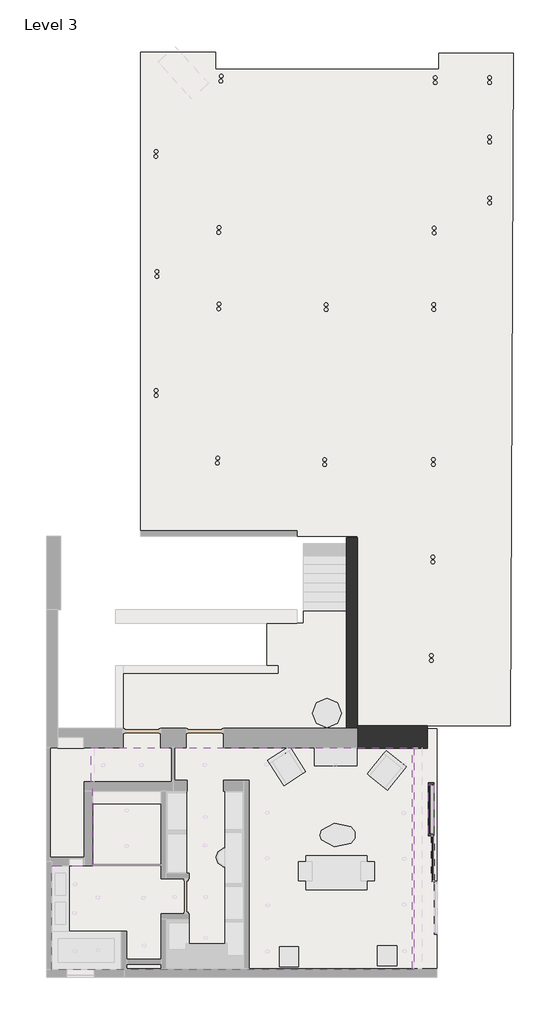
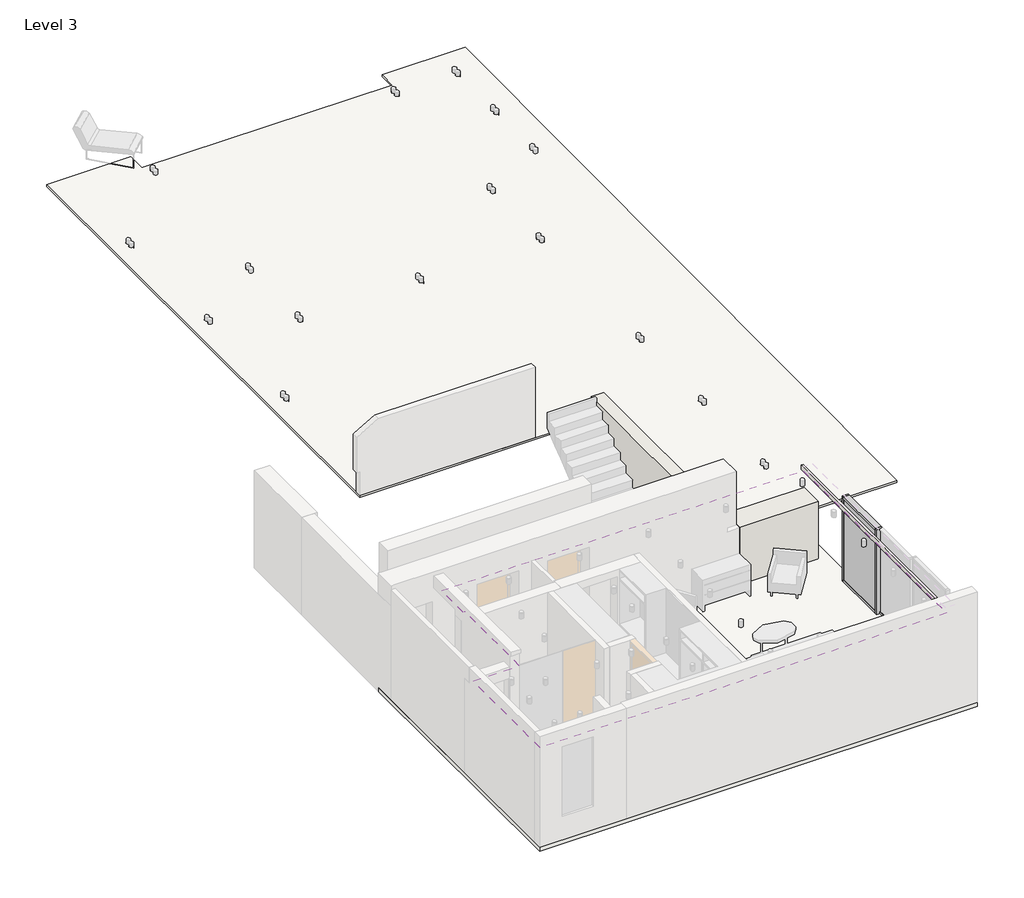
# One storey, part 2 of 3: 5 members, 3 walls, 2 coverings, 1 plate, 1 slab.
"""IFC4 building model written with IfcOpenShell, lengths in millimetres."""

import ifcopenshell
import ifcopenshell.guid

model = None  # the IFC model being written
_history = None  # IfcOwnerHistory: only IFC2X3 demands one
_inside = {}  # id of a spatial element -> (the spatial element, [elements in it])
_under = {}  # id of a project, library or spatial element -> (it, [spatial elements below it])
_declared = {}  # id of a project -> (the project, [libraries it declares])
_typed = {}  # id of a type object -> (the type object, [elements of that type])
_made_of = {}  # id of a material, layer set ... -> (it, [elements and type objects made of it])


def new_model(schema):
    """Start an empty IFC model of exactly this schema.

    Asked for "IFC4X3", IfcOpenShell would pick the latest addendum, in which some entities
    have other attributes; the version numbers below select the first issue.
    IFC2X3 requires an IfcOwnerHistory on every rooted entity: one is made here for all.
    """
    global model, _history
    if schema == "IFC4X3":
        model = ifcopenshell.file(schema_version=(4, 3, 0, 0))
    else:
        model = ifcopenshell.file(schema=schema)
    _inside.clear()
    _under.clear()
    _declared.clear()
    _typed.clear()
    _made_of.clear()
    _history = None
    if model.schema == "IFC2X3":
        org = make("IfcOrganization", Name="unknown")
        user = make(
            "IfcPersonAndOrganization",
            ThePerson=make("IfcPerson", FamilyName="unknown"),
            TheOrganization=org,
        )
        app = make(
            "IfcApplication",
            ApplicationDeveloper=org,
            Version="unknown",
            ApplicationFullName="unknown",
            ApplicationIdentifier="unknown",
        )
        _history = make(
            "IfcOwnerHistory",
            OwningUser=user,
            OwningApplication=app,
            ChangeAction="ADDED",
            CreationDate=0,
        )
    return model


def make(cls, **values):
    """One entity of the class cls with the attributes given. An attribute that is None is left unset."""
    return model.create_entity(
        cls, **{name: value for name, value in values.items() if value is not None}
    )


def rooted(cls, **values):
    """An entity with a GlobalId (a new one), such as an element, a storey or a relation."""
    return make(cls, GlobalId=ifcopenshell.guid.new(), OwnerHistory=_history, **values)


def si_unit(unit_type, name, prefix=None):
    """IfcSIUnit, for example si_unit("LENGTHUNIT", "METRE", prefix="MILLI")."""
    return make("IfcSIUnit", UnitType=unit_type, Prefix=prefix, Name=name)


def assignment(units):
    """IfcUnitAssignment: the units of a project."""
    return None if units is None else make("IfcUnitAssignment", Units=units)


def point(xyz):
    """IfcCartesianPoint."""
    return None if xyz is None else make("IfcCartesianPoint", Coordinates=xyz)


def direction(xyz):
    """IfcDirection."""
    return None if xyz is None else make("IfcDirection", DirectionRatios=xyz)


def frame(location, z_axis=None, x_axis=None):
    """IfcAxis2Placement3D, a coordinate frame: its origin and axes. An axis left out is left unset."""
    return make(
        "IfcAxis2Placement3D",
        Location=point(location),
        Axis=direction(z_axis),
        RefDirection=direction(x_axis),
    )


def frame_2d(location, x_axis=None):
    """IfcAxis2Placement2D, a coordinate frame in the plane: its origin and x axis."""
    return make(
        "IfcAxis2Placement2D", Location=point(location), RefDirection=direction(x_axis)
    )


def origin():
    """The frame at (0, 0, 0) with its axes left unset."""
    return frame((0.0, 0.0, 0.0))


def origin_with_axes():
    """The frame at (0, 0, 0) with the z axis (0, 0, 1) and the x axis (1, 0, 0) written out."""
    return frame((0.0, 0.0, 0.0), z_axis=(0.0, 0.0, 1.0), x_axis=(1.0, 0.0, 0.0))


def place(relative_to, where):
    """IfcLocalPlacement: puts the frame where relative to a parent placement (None: the world)."""
    return make(
        "IfcLocalPlacement", PlacementRelTo=relative_to, RelativePlacement=where
    )


def context(
    kind, dimensions, precision=None, world=None, true_north=None, identifier=None
):
    """IfcGeometricRepresentationContext, for example the 3D "Model" context."""
    return make(
        "IfcGeometricRepresentationContext",
        ContextIdentifier=identifier,
        ContextType=kind,
        CoordinateSpaceDimension=dimensions,
        Precision=precision,
        WorldCoordinateSystem=world,
        TrueNorth=true_north,
    )


def project(units=None, contexts=None):
    """IfcProject with its units and contexts."""
    return rooted(
        "IfcProject",
        Name="project",
        RepresentationContexts=contexts,
        UnitsInContext=assignment(units),
    )


def spatial(cls, under=None, at=None, **own):
    """A site, building, storey or space (cls), placed at a placement, below another one or the project."""
    s = rooted(cls, ObjectPlacement=at, **own)
    if under is not None:
        _under.setdefault(under.id(), (under, []))[1].append(s)
    return s


def polyline(points):
    """IfcPolyline through the points."""
    return make("IfcPolyline", Points=[point(p) for p in points])


def circle_curve(where, radius):
    """IfcCircle in the frame where."""
    return make("IfcCircle", Position=where, Radius=radius)


def trimmed(basis, trim1, trim2, sense, master):
    """IfcTrimmedCurve: the piece of a basis curve between two trims."""
    return make(
        "IfcTrimmedCurve",
        BasisCurve=basis,
        Trim1=trim1,
        Trim2=trim2,
        SenseAgreement=sense,
        MasterRepresentation=master,
    )


def segment(curve, same_sense, transition):
    """IfcCompositeCurveSegment."""
    return make(
        "IfcCompositeCurveSegment",
        Transition=transition,
        SameSense=same_sense,
        ParentCurve=curve,
    )


def composite_curve(segments, self_intersect=None):
    """IfcCompositeCurve: segments joined end to end."""
    return make("IfcCompositeCurve", Segments=segments, SelfIntersect=self_intersect)


def outline(outer, holes=None, kind="AREA"):
    """IfcArbitraryClosedProfileDef: a profile drawn as a closed curve; with holes, ...WithVoids."""
    if holes is None:
        return make("IfcArbitraryClosedProfileDef", ProfileType=kind, OuterCurve=outer)
    return make(
        "IfcArbitraryProfileDefWithVoids",
        ProfileType=kind,
        OuterCurve=outer,
        InnerCurves=holes,
    )


def extrude(swept, where, along, depth):
    """IfcExtrudedAreaSolid: the profile swept, set in the frame where, extruded along a direction by depth."""
    return make(
        "IfcExtrudedAreaSolid",
        SweptArea=swept,
        Position=where,
        ExtrudedDirection=direction(along),
        Depth=depth,
    )


def faces_of(points, faces, orient=None, outer=None):
    """IfcFace entities. A face is a list of loops; a loop is a list of indices into points, from 0.

    orient and outer hold one flag for each loop. By default every Orientation is true, the
    first loop of a face is its IfcFaceOuterBound and the others are IfcFaceBound.
    """
    made = []
    for i, loops in enumerate(faces):
        bounds = []
        for j, loop in enumerate(loops):
            is_outer = j == 0 if outer is None else outer[i][j]
            bounds.append(
                make(
                    "IfcFaceOuterBound" if is_outer else "IfcFaceBound",
                    Bound=make("IfcPolyLoop", Polygon=[points[k] for k in loop]),
                    Orientation=True if orient is None else orient[i][j],
                )
            )
        made.append(make("IfcFace", Bounds=bounds))
    return made


def faceted_brep(points, faces, orient=None, outer=None, voids=None):
    """IfcFacetedBrep: a solid bounded by flat faces; with voids (closed shells), ...WithVoids."""
    shared = [point(p) for p in points]
    hull = make("IfcClosedShell", CfsFaces=faces_of(shared, faces, orient, outer))
    if voids is None:
        return make("IfcFacetedBrep", Outer=hull)
    return make(
        "IfcFacetedBrepWithVoids",
        Outer=hull,
        Voids=[
            make(cls, CfsFaces=faces_of(shared, fs, o, b)) for cls, fs, o, b in voids
        ],
    )


def shape(context_of_items, identifier, shape_type, items):
    """IfcShapeRepresentation: the items that make up one representation, for example the "Body"."""
    return make(
        "IfcShapeRepresentation",
        ContextOfItems=context_of_items,
        RepresentationIdentifier=identifier,
        RepresentationType=shape_type,
        Items=items,
    )


def source(mapping_origin, context_of_items, identifier, shape_type, items):
    """IfcRepresentationMap: a shape defined once, which mapped items show again and again."""
    return make(
        "IfcRepresentationMap",
        MappingOrigin=mapping_origin,
        MappedRepresentation=shape(context_of_items, identifier, shape_type, items),
    )


def transform(
    local_origin,
    x_axis=None,
    y_axis=None,
    z_axis=None,
    scale=None,
    scale2=None,
    scale3=None,
    uniform=True,
):
    """IfcCartesianTransformationOperator3D, or its non-uniform kind. x_axis, y_axis, z_axis: its Axis1, 2, 3."""
    if uniform:
        return make(
            "IfcCartesianTransformationOperator3D",
            Axis1=direction(x_axis),
            Axis2=direction(y_axis),
            LocalOrigin=point(local_origin),
            Scale=scale,
            Axis3=direction(z_axis),
        )
    return make(
        "IfcCartesianTransformationOperator3DnonUniform",
        Axis1=direction(x_axis),
        Axis2=direction(y_axis),
        LocalOrigin=point(local_origin),
        Scale=scale,
        Axis3=direction(z_axis),
        Scale2=scale2,
        Scale3=scale3,
    )


def mapped(mapping_source, mapping_target):
    """IfcMappedItem: shows the shape of a source again, moved by a transform."""
    return make(
        "IfcMappedItem", MappingSource=mapping_source, MappingTarget=mapping_target
    )


def made_of(thing, what):
    """Note that an element or type object is made of a material, layer set ...; save() writes the relation."""
    if what is not None:
        _made_of.setdefault(what.id(), (what, []))[1].append(thing)
    return thing


def element(
    cls,
    number,
    at=None,
    inside=None,
    cuts=None,
    type_object=None,
    material=None,
    context=None,
    identifier="Body",
    shape_type=None,
    held_by="IfcProductDefinitionShape",
    body=None,
    shapes=None,
    **own,
):
    """One element of the class cls, such as IfcWall. Its Tag is "e" and its number.

    at: its placement. inside: the storey or other place that contains it. cuts: it is an
    opening in that element (IfcRelVoidsElement). A single representation is given by context,
    identifier, shape_type and body (its items); several are given by shapes. held_by: the class
    of the entity that holds the representations. save() writes the other relations.
    """
    e = rooted(cls, Tag="e%d" % number, ObjectPlacement=at, **own)
    if body is not None:
        shapes = [shape(context, identifier, shape_type, body)]
    if shapes is not None:
        e.Representation = make(held_by, Representations=shapes)
    if inside is not None:
        _inside.setdefault(inside.id(), (inside, []))[1].append(e)
    if cuts is not None:
        rooted(
            "IfcRelVoidsElement", RelatingBuildingElement=cuts, RelatedOpeningElement=e
        )
    if type_object is not None:
        _typed.setdefault(type_object.id(), (type_object, []))[1].append(e)
    return made_of(e, material)


def aggregate(whole, parts):
    """IfcRelAggregates: a whole, such as a stair, and the parts it consists of."""
    return rooted("IfcRelAggregates", RelatingObject=whole, RelatedObjects=parts)


def save(model, path):
    """Write the relations noted so far, then the file.

    IfcRelAggregates (storeys below a building ...), IfcRelContainedInSpatialStructure (elements
    in a storey), IfcRelDefinesByType, IfcRelAssociatesMaterial and IfcRelDeclares: one each for
    every whole, place, type object, material and project.
    """
    for whole, parts in _under.values():
        aggregate(whole, parts)
    for where, things in _inside.values():
        rooted(
            "IfcRelContainedInSpatialStructure",
            RelatedElements=things,
            RelatingStructure=where,
        )
    for kind, things in _typed.values():
        rooted("IfcRelDefinesByType", RelatedObjects=things, RelatingType=kind)
    for what, things in _made_of.values():
        rooted("IfcRelAssociatesMaterial", RelatedObjects=things, RelatingMaterial=what)
    for by, libraries in _declared.values():
        rooted("IfcRelDeclares", RelatingContext=by, RelatedDefinitions=libraries)
    model.write(path)


def rectangular_mullion_50_x_150mm_6117d25b(model_context):
    return source(origin(), model_context, "Body", "SweptSolid", [
        extrude(outline(polyline([(0.0, 25.0), (0.0, -125.0), (-50.0, -125.0), (-50.0, 25.0), (0.0, 25.0)])), frame((0.0, 0.0, -2184.1033932), z_axis=(0.0, 0.0, 1.0), x_axis=(1.0, 0.0, 0.0)), (0.0, 0.0, 1.0), 2184.1033932),
    ])


def rectangular_mullion_50_x_150mm_4fcc4482(model_context):
    return source(origin(), model_context, "Body", "SweptSolid", [
        extrude(outline(polyline([(0.0, 25.0), (0.0, -125.0), (-50.0, -125.0), (-50.0, 25.0), (0.0, 25.0)])), frame((0.0, 0.0, -1340.0), z_axis=(0.0, 0.0, 1.0), x_axis=(1.0, 0.0, 0.0)), (0.0, 0.0, 1.0), 1340.0),
    ])


def rectangular_mullion_50_x_80mm_1b52a698(model_context):
    return source(origin(), model_context, "Body", "SweptSolid", [
        extrude(outline(polyline([(0.0, 25.0), (0.0, -55.0), (-50.0, -55.0), (-50.0, 25.0), (0.0, 25.0)])), frame((0.0, 0.0, -1240.0), z_axis=(0.0, 0.0, 1.0), x_axis=(1.0, 0.0, 0.0)), (0.0, 0.0, 1.0), 1240.0),
    ])


def system_panel_glazed_2_ff733679(model_context):
    return source(origin(), model_context, "Body", "SweptSolid", [
        extrude(outline(polyline([(670.0, -6.35), (-670.0, -6.35), (-670.0, 6.35), (670.0, 6.35), (670.0, -6.35)])), origin_with_axes(), (0.0, 0.0, 1.0), 2084.1033932),
    ])


model = new_model("IFC4")

# Units and contexts
model_context = context("Model", 3, world=origin())
ifc_project = project(units=[si_unit("LENGTHUNIT", "METRE", prefix="MILLI")], contexts=[model_context])

# Site, building, storey
site = spatial("IfcSite", under=ifc_project)
building = spatial("IfcBuilding", under=site)
storey = spatial("IfcBuildingStorey", under=building, Name="Level 3", Elevation=6510.0)

# Coverings
placement = place(None, origin())
element("IfcCovering", 1, ObjectType="Ceiling", at=placement, inside=storey, context=model_context, shape_type="SweptSolid", body=[
    extrude(outline(polyline([(586.4168364, 5425.4417732), (586.4168364, 10588.8264883), (-5319.2035042, 10588.8264883), (-5319.2035042, 23773.8264883), (-3274.2035042, 23773.8264883), (-3274.2035042, 23308.8264883), (2815.7964958, 23308.8264883), (2815.7964958, 23738.8264883), (4833.4417028, 23738.8264883), (4753.660866, 5425.4417732), (586.4168364, 5425.4417732)]), holes=[composite_curve([segment(trimmed(circle_curve(frame_2d((-3224.1942338, 12580.4333824)), 50.0), [point((-3274.1942338, 12580.4333824))], [point((-3174.1942338, 12580.4333824))], True, "CARTESIAN"), True, "CONTINUOUS"), segment(trimmed(circle_curve(frame_2d((-3224.1942338, 12580.4333824)), 50.0), [point((-3174.1942338, 12580.4333824))], [point((-3274.1942338, 12580.4333824))], True, "CARTESIAN"), True, "CONTINUOUS")], self_intersect=False), composite_curve([segment(trimmed(circle_curve(frame_2d((-3214.4590029, 12716.7266151)), 50.0), [point((-3264.4590029, 12716.7266151))], [point((-3164.4590029, 12716.7266151))], True, "CARTESIAN"), True, "CONTINUOUS"), segment(trimmed(circle_curve(frame_2d((-3214.4590029, 12716.7266151)), 50.0), [point((-3164.4590029, 12716.7266151))], [point((-3264.4590029, 12716.7266151))], True, "CARTESIAN"), True, "CONTINUOUS")], self_intersect=False), composite_curve([segment(trimmed(circle_curve(frame_2d((-3188.0817045, 16780.2766349)), 50.0), [point((-3238.0817045, 16780.2766349))], [point((-3138.0817045, 16780.2766349))], True, "CARTESIAN"), True, "CONTINUOUS"), segment(trimmed(circle_curve(frame_2d((-3188.0817045, 16780.2766349)), 50.0), [point((-3138.0817045, 16780.2766349))], [point((-3238.0817045, 16780.2766349))], True, "CARTESIAN"), True, "CONTINUOUS")], self_intersect=False), composite_curve([segment(trimmed(circle_curve(frame_2d((-3178.3464736, 16916.5698676)), 50.0), [point((-3228.3464736, 16916.5698676))], [point((-3128.3464736, 16916.5698676))], True, "CARTESIAN"), True, "CONTINUOUS"), segment(trimmed(circle_curve(frame_2d((-3178.3464736, 16916.5698676)), 50.0), [point((-3128.3464736, 16916.5698676))], [point((-3228.3464736, 16916.5698676))], True, "CARTESIAN"), True, "CONTINUOUS")], self_intersect=False), composite_curve([segment(trimmed(circle_curve(frame_2d((-3188.0817045, 18860.2766349)), 50.0), [point((-3238.0817045, 18860.2766349))], [point((-3138.0817045, 18860.2766349))], True, "CARTESIAN"), True, "CONTINUOUS"), segment(trimmed(circle_curve(frame_2d((-3188.0817045, 18860.2766349)), 50.0), [point((-3138.0817045, 18860.2766349))], [point((-3238.0817045, 18860.2766349))], True, "CARTESIAN"), True, "CONTINUOUS")], self_intersect=False), composite_curve([segment(trimmed(circle_curve(frame_2d((-3178.3464736, 18996.5698676)), 50.0), [point((-3228.3464736, 18996.5698676))], [point((-3128.3464736, 18996.5698676))], True, "CARTESIAN"), True, "CONTINUOUS"), segment(trimmed(circle_curve(frame_2d((-3178.3464736, 18996.5698676)), 50.0), [point((-3128.3464736, 18996.5698676))], [point((-3228.3464736, 18996.5698676))], True, "CARTESIAN"), True, "CONTINUOUS")], self_intersect=False), composite_curve([segment(trimmed(circle_curve(frame_2d((-3128.0817045, 22980.2766349)), 50.0), [point((-3178.0817045, 22980.2766349))], [point((-3078.0817045, 22980.2766349))], True, "CARTESIAN"), True, "CONTINUOUS"), segment(trimmed(circle_curve(frame_2d((-3128.0817045, 22980.2766349)), 50.0), [point((-3078.0817045, 22980.2766349))], [point((-3178.0817045, 22980.2766349))], True, "CARTESIAN"), True, "CONTINUOUS")], self_intersect=False), composite_curve([segment(trimmed(circle_curve(frame_2d((-3118.3464736, 23116.5698676)), 50.0), [point((-3168.3464736, 23116.5698676))], [point((-3068.3464736, 23116.5698676))], True, "CARTESIAN"), True, "CONTINUOUS"), segment(trimmed(circle_curve(frame_2d((-3118.3464736, 23116.5698676)), 50.0), [point((-3068.3464736, 23116.5698676))], [point((-3168.3464736, 23116.5698676))], True, "CARTESIAN"), True, "CONTINUOUS")], self_intersect=False), composite_curve([segment(trimmed(circle_curve(frame_2d((-4902.2467604, 20931.982539)), 50.0), [point((-4952.2467604, 20931.982539))], [point((-4852.2467604, 20931.982539))], True, "CARTESIAN"), True, "CONTINUOUS"), segment(trimmed(circle_curve(frame_2d((-4902.2467604, 20931.982539)), 50.0), [point((-4852.2467604, 20931.982539))], [point((-4952.2467604, 20931.982539))], True, "CARTESIAN"), True, "CONTINUOUS")], self_intersect=False), composite_curve([segment(trimmed(circle_curve(frame_2d((-4892.5115294, 21068.2757716)), 50.0), [point((-4942.5115294, 21068.2757716))], [point((-4842.5115294, 21068.2757716))], True, "CARTESIAN"), True, "CONTINUOUS"), segment(trimmed(circle_curve(frame_2d((-4892.5115294, 21068.2757716)), 50.0), [point((-4842.5115294, 21068.2757716))], [point((-4942.5115294, 21068.2757716))], True, "CARTESIAN"), True, "CONTINUOUS")], self_intersect=False), composite_curve([segment(trimmed(circle_curve(frame_2d((-4872.2467604, 17661.982539)), 50.0), [point((-4922.2467604, 17661.982539))], [point((-4822.2467604, 17661.982539))], True, "CARTESIAN"), True, "CONTINUOUS"), segment(trimmed(circle_curve(frame_2d((-4872.2467604, 17661.982539)), 50.0), [point((-4822.2467604, 17661.982539))], [point((-4922.2467604, 17661.982539))], True, "CARTESIAN"), True, "CONTINUOUS")], self_intersect=False), composite_curve([segment(trimmed(circle_curve(frame_2d((-4872.5115294, 17798.2757716)), 50.0), [point((-4922.5115294, 17798.2757716))], [point((-4822.5115294, 17798.2757716))], True, "CARTESIAN"), True, "CONTINUOUS"), segment(trimmed(circle_curve(frame_2d((-4872.5115294, 17798.2757716)), 50.0), [point((-4822.5115294, 17798.2757716))], [point((-4922.5115294, 17798.2757716))], True, "CARTESIAN"), True, "CONTINUOUS")], self_intersect=False), composite_curve([segment(trimmed(circle_curve(frame_2d((-4892.2467604, 14421.982539)), 50.0), [point((-4942.2467604, 14421.982539))], [point((-4842.2467604, 14421.982539))], True, "CARTESIAN"), True, "CONTINUOUS"), segment(trimmed(circle_curve(frame_2d((-4892.2467604, 14421.982539)), 50.0), [point((-4842.2467604, 14421.982539))], [point((-4942.2467604, 14421.982539))], True, "CARTESIAN"), True, "CONTINUOUS")], self_intersect=False), composite_curve([segment(trimmed(circle_curve(frame_2d((-4892.5115294, 14558.2757716)), 50.0), [point((-4942.5115294, 14558.2757716))], [point((-4842.5115294, 14558.2757716))], True, "CARTESIAN"), True, "CONTINUOUS"), segment(trimmed(circle_curve(frame_2d((-4892.5115294, 14558.2757716)), 50.0), [point((-4842.5115294, 14558.2757716))], [point((-4942.5115294, 14558.2757716))], True, "CARTESIAN"), True, "CONTINUOUS")], self_intersect=False), composite_curve([segment(trimmed(circle_curve(frame_2d((-303.3628814, 12539.5853868)), 50.0), [point((-353.3628814, 12539.5853868))], [point((-253.3628814, 12539.5853868))], True, "CARTESIAN"), True, "CONTINUOUS"), segment(trimmed(circle_curve(frame_2d((-303.3628814, 12539.5853868)), 50.0), [point((-253.3628814, 12539.5853868))], [point((-353.3628814, 12539.5853868))], True, "CARTESIAN"), True, "CONTINUOUS")], self_intersect=False), composite_curve([segment(trimmed(circle_curve(frame_2d((-303.6276505, 12675.8786195)), 50.0), [point((-353.6276505, 12675.8786195))], [point((-253.6276505, 12675.8786195))], True, "CARTESIAN"), True, "CONTINUOUS"), segment(trimmed(circle_curve(frame_2d((-303.6276505, 12675.8786195)), 50.0), [point((-253.6276505, 12675.8786195))], [point((-353.6276505, 12675.8786195))], True, "CARTESIAN"), True, "CONTINUOUS")], self_intersect=False), composite_curve([segment(trimmed(circle_curve(frame_2d((-263.3628814, 16759.5853868)), 50.0), [point((-313.3628814, 16759.5853868))], [point((-213.3628814, 16759.5853868))], True, "CARTESIAN"), True, "CONTINUOUS"), segment(trimmed(circle_curve(frame_2d((-263.3628814, 16759.5853868)), 50.0), [point((-213.3628814, 16759.5853868))], [point((-313.3628814, 16759.5853868))], True, "CARTESIAN"), True, "CONTINUOUS")], self_intersect=False), composite_curve([segment(trimmed(circle_curve(frame_2d((-263.6276505, 16895.8786195)), 50.0), [point((-313.6276505, 16895.8786195))], [point((-213.6276505, 16895.8786195))], True, "CARTESIAN"), True, "CONTINUOUS"), segment(trimmed(circle_curve(frame_2d((-263.6276505, 16895.8786195)), 50.0), [point((-213.6276505, 16895.8786195))], [point((-313.6276505, 16895.8786195))], True, "CARTESIAN"), True, "CONTINUOUS")], self_intersect=False), composite_curve([segment(trimmed(circle_curve(frame_2d((2713.7771246, 22939.8958471)), 50.0), [point((2663.7771246, 22939.8958471))], [point((2763.7771246, 22939.8958471))], True, "CARTESIAN"), True, "CONTINUOUS"), segment(trimmed(circle_curve(frame_2d((2713.7771246, 22939.8958471)), 50.0), [point((2763.7771246, 22939.8958471))], [point((2663.7771246, 22939.8958471))], True, "CARTESIAN"), True, "CONTINUOUS")], self_intersect=False), composite_curve([segment(trimmed(circle_curve(frame_2d((2713.5123555, 23076.1890797)), 50.0), [point((2663.5123555, 23076.1890797))], [point((2763.5123555, 23076.1890797))], True, "CARTESIAN"), True, "CONTINUOUS"), segment(trimmed(circle_curve(frame_2d((2713.5123555, 23076.1890797)), 50.0), [point((2763.5123555, 23076.1890797))], [point((2663.5123555, 23076.1890797))], True, "CARTESIAN"), True, "CONTINUOUS")], self_intersect=False), composite_curve([segment(trimmed(circle_curve(frame_2d((4193.7771246, 22939.8958471)), 50.0), [point((4143.7771246, 22939.8958471))], [point((4243.7771246, 22939.8958471))], True, "CARTESIAN"), True, "CONTINUOUS"), segment(trimmed(circle_curve(frame_2d((4193.7771246, 22939.8958471)), 50.0), [point((4243.7771246, 22939.8958471))], [point((4143.7771246, 22939.8958471))], True, "CARTESIAN"), True, "CONTINUOUS")], self_intersect=False), composite_curve([segment(trimmed(circle_curve(frame_2d((4193.5123555, 23076.1890797)), 50.0), [point((4143.5123555, 23076.1890797))], [point((4243.5123555, 23076.1890797))], True, "CARTESIAN"), True, "CONTINUOUS"), segment(trimmed(circle_curve(frame_2d((4193.5123555, 23076.1890797)), 50.0), [point((4243.5123555, 23076.1890797))], [point((4143.5123555, 23076.1890797))], True, "CARTESIAN"), True, "CONTINUOUS")], self_intersect=False), composite_curve([segment(trimmed(circle_curve(frame_2d((4193.7771246, 21319.8958471)), 50.0), [point((4143.7771246, 21319.8958471))], [point((4243.7771246, 21319.8958471))], True, "CARTESIAN"), True, "CONTINUOUS"), segment(trimmed(circle_curve(frame_2d((4193.7771246, 21319.8958471)), 50.0), [point((4243.7771246, 21319.8958471))], [point((4143.7771246, 21319.8958471))], True, "CARTESIAN"), True, "CONTINUOUS")], self_intersect=False), composite_curve([segment(trimmed(circle_curve(frame_2d((4193.5123555, 21456.1890797)), 50.0), [point((4143.5123555, 21456.1890797))], [point((4243.5123555, 21456.1890797))], True, "CARTESIAN"), True, "CONTINUOUS"), segment(trimmed(circle_curve(frame_2d((4193.5123555, 21456.1890797)), 50.0), [point((4243.5123555, 21456.1890797))], [point((4143.5123555, 21456.1890797))], True, "CARTESIAN"), True, "CONTINUOUS")], self_intersect=False), composite_curve([segment(trimmed(circle_curve(frame_2d((4193.7771246, 19664.8958471)), 50.0), [point((4143.7771246, 19664.8958471))], [point((4243.7771246, 19664.8958471))], True, "CARTESIAN"), True, "CONTINUOUS"), segment(trimmed(circle_curve(frame_2d((4193.7771246, 19664.8958471)), 50.0), [point((4243.7771246, 19664.8958471))], [point((4143.7771246, 19664.8958471))], True, "CARTESIAN"), True, "CONTINUOUS")], self_intersect=False), composite_curve([segment(trimmed(circle_curve(frame_2d((4193.5123555, 19801.1890797)), 50.0), [point((4143.5123555, 19801.1890797))], [point((4243.5123555, 19801.1890797))], True, "CARTESIAN"), True, "CONTINUOUS"), segment(trimmed(circle_curve(frame_2d((4193.5123555, 19801.1890797)), 50.0), [point((4243.5123555, 19801.1890797))], [point((4143.5123555, 19801.1890797))], True, "CARTESIAN"), True, "CONTINUOUS")], self_intersect=False), composite_curve([segment(trimmed(circle_curve(frame_2d((2682.4541124, 18843.7364516)), 50.0), [point((2632.4541124, 18843.7364516))], [point((2732.4541124, 18843.7364516))], True, "CARTESIAN"), True, "CONTINUOUS"), segment(trimmed(circle_curve(frame_2d((2682.4541124, 18843.7364516)), 50.0), [point((2732.4541124, 18843.7364516))], [point((2632.4541124, 18843.7364516))], True, "CARTESIAN"), True, "CONTINUOUS")], self_intersect=False), composite_curve([segment(trimmed(circle_curve(frame_2d((2682.1893433, 18980.0296842)), 50.0), [point((2632.1893433, 18980.0296842))], [point((2732.1893433, 18980.0296842))], True, "CARTESIAN"), True, "CONTINUOUS"), segment(trimmed(circle_curve(frame_2d((2682.1893433, 18980.0296842)), 50.0), [point((2732.1893433, 18980.0296842))], [point((2632.1893433, 18980.0296842))], True, "CARTESIAN"), True, "CONTINUOUS")], self_intersect=False), composite_curve([segment(trimmed(circle_curve(frame_2d((2672.4541124, 16763.7364516)), 50.0), [point((2622.4541124, 16763.7364516))], [point((2722.4541124, 16763.7364516))], True, "CARTESIAN"), True, "CONTINUOUS"), segment(trimmed(circle_curve(frame_2d((2672.4541124, 16763.7364516)), 50.0), [point((2722.4541124, 16763.7364516))], [point((2622.4541124, 16763.7364516))], True, "CARTESIAN"), True, "CONTINUOUS")], self_intersect=False), composite_curve([segment(trimmed(circle_curve(frame_2d((2672.1893433, 16900.0296842)), 50.0), [point((2622.1893433, 16900.0296842))], [point((2722.1893433, 16900.0296842))], True, "CARTESIAN"), True, "CONTINUOUS"), segment(trimmed(circle_curve(frame_2d((2672.1893433, 16900.0296842)), 50.0), [point((2722.1893433, 16900.0296842))], [point((2622.1893433, 16900.0296842))], True, "CARTESIAN"), True, "CONTINUOUS")], self_intersect=False), composite_curve([segment(trimmed(circle_curve(frame_2d((2662.4541124, 12543.7364516)), 50.0), [point((2612.4541124, 12543.7364516))], [point((2712.4541124, 12543.7364516))], True, "CARTESIAN"), True, "CONTINUOUS"), segment(trimmed(circle_curve(frame_2d((2662.4541124, 12543.7364516)), 50.0), [point((2712.4541124, 12543.7364516))], [point((2612.4541124, 12543.7364516))], True, "CARTESIAN"), True, "CONTINUOUS")], self_intersect=False), composite_curve([segment(trimmed(circle_curve(frame_2d((2662.1893433, 12680.0296842)), 50.0), [point((2612.1893433, 12680.0296842))], [point((2712.1893433, 12680.0296842))], True, "CARTESIAN"), True, "CONTINUOUS"), segment(trimmed(circle_curve(frame_2d((2662.1893433, 12680.0296842)), 50.0), [point((2712.1893433, 12680.0296842))], [point((2612.1893433, 12680.0296842))], True, "CARTESIAN"), True, "CONTINUOUS")], self_intersect=False), composite_curve([segment(trimmed(circle_curve(frame_2d((2647.4541124, 9888.7364516)), 50.0), [point((2597.4541124, 9888.7364516))], [point((2697.4541124, 9888.7364516))], True, "CARTESIAN"), True, "CONTINUOUS"), segment(trimmed(circle_curve(frame_2d((2647.4541124, 9888.7364516)), 50.0), [point((2697.4541124, 9888.7364516))], [point((2597.4541124, 9888.7364516))], True, "CARTESIAN"), True, "CONTINUOUS")], self_intersect=False), composite_curve([segment(trimmed(circle_curve(frame_2d((2647.1893433, 10025.0296842)), 50.0), [point((2597.1893433, 10025.0296842))], [point((2697.1893433, 10025.0296842))], True, "CARTESIAN"), True, "CONTINUOUS"), segment(trimmed(circle_curve(frame_2d((2647.1893433, 10025.0296842)), 50.0), [point((2697.1893433, 10025.0296842))], [point((2597.1893433, 10025.0296842))], True, "CARTESIAN"), True, "CONTINUOUS")], self_intersect=False), composite_curve([segment(trimmed(circle_curve(frame_2d((2607.4541124, 7208.7364516)), 50.0), [point((2557.4541124, 7208.7364516))], [point((2657.4541124, 7208.7364516))], True, "CARTESIAN"), True, "CONTINUOUS"), segment(trimmed(circle_curve(frame_2d((2607.4541124, 7208.7364516)), 50.0), [point((2657.4541124, 7208.7364516))], [point((2557.4541124, 7208.7364516))], True, "CARTESIAN"), True, "CONTINUOUS")], self_intersect=False), composite_curve([segment(trimmed(circle_curve(frame_2d((2607.1893433, 7345.0296842)), 50.0), [point((2557.1893433, 7345.0296842))], [point((2657.1893433, 7345.0296842))], True, "CARTESIAN"), True, "CONTINUOUS"), segment(trimmed(circle_curve(frame_2d((2607.1893433, 7345.0296842)), 50.0), [point((2657.1893433, 7345.0296842))], [point((2557.1893433, 7345.0296842))], True, "CARTESIAN"), True, "CONTINUOUS")], self_intersect=False)]), frame((0.0, 0.0, 7325.0), z_axis=(0.0, 0.0, 1.0), x_axis=(1.0, 0.0, 0.0)), (0.0, 0.0, 1.0), 50.0),
])
element("IfcCovering", 2, ObjectType="Ceiling", at=placement, inside=storey, context=model_context, shape_type="SweptSolid", body=[
    extrude(outline(polyline([(-6658.0019919, 4825.5198069), (2136.8850026, 4825.5198069), (2136.8850026, -1211.1735117), (-7745.5019919, -1211.1735117), (-7745.5019919, 1613.8264883), (-6618.0019919, 1613.8264883), (-6618.0019919, 3903.8264883), (-6658.0019919, 3903.8264883), (-6658.0019919, 4825.5198069)]), holes=[composite_curve([segment(trimmed(circle_curve(frame_2d((1854.4980081, 4375.5198069)), 50.0), [point((1804.4980081, 4375.5198069))], [point((1904.4980081, 4375.5198069))], True, "CARTESIAN"), True, "CONTINUOUS"), segment(trimmed(circle_curve(frame_2d((1854.4980081, 4375.5198069)), 50.0), [point((1904.4980081, 4375.5198069))], [point((1804.4980081, 4375.5198069))], True, "CARTESIAN"), True, "CONTINUOUS")], self_intersect=False), composite_curve([segment(trimmed(circle_curve(frame_2d((1854.4980081, 3055.5198069)), 50.0), [point((1804.4980081, 3055.5198069))], [point((1904.4980081, 3055.5198069))], True, "CARTESIAN"), True, "CONTINUOUS"), segment(trimmed(circle_curve(frame_2d((1854.4980081, 3055.5198069)), 50.0), [point((1904.4980081, 3055.5198069))], [point((1804.4980081, 3055.5198069))], True, "CARTESIAN"), True, "CONTINUOUS")], self_intersect=False), composite_curve([segment(trimmed(circle_curve(frame_2d((1869.4980081, 1810.5198069)), 50.0), [point((1819.4980081, 1810.5198069))], [point((1919.4980081, 1810.5198069))], True, "CARTESIAN"), True, "CONTINUOUS"), segment(trimmed(circle_curve(frame_2d((1869.4980081, 1810.5198069)), 50.0), [point((1919.4980081, 1810.5198069))], [point((1819.4980081, 1810.5198069))], True, "CARTESIAN"), True, "CONTINUOUS")], self_intersect=False), composite_curve([segment(trimmed(circle_curve(frame_2d((1864.4980081, 565.5198069)), 50.0), [point((1814.4980081, 565.5198069))], [point((1914.4980081, 565.5198069))], True, "CARTESIAN"), True, "CONTINUOUS"), segment(trimmed(circle_curve(frame_2d((1864.4980081, 565.5198069)), 50.0), [point((1914.4980081, 565.5198069))], [point((1814.4980081, 565.5198069))], True, "CARTESIAN"), True, "CONTINUOUS")], self_intersect=False), composite_curve([segment(trimmed(circle_curve(frame_2d((1874.4980081, -704.4801931)), 50.0), [point((1824.4980081, -704.4801931))], [point((1924.4980081, -704.4801931))], True, "CARTESIAN"), True, "CONTINUOUS"), segment(trimmed(circle_curve(frame_2d((1874.4980081, -704.4801931)), 50.0), [point((1924.4980081, -704.4801931))], [point((1824.4980081, -704.4801931))], True, "CARTESIAN"), True, "CONTINUOUS")], self_intersect=False), composite_curve([segment(trimmed(circle_curve(frame_2d((-15.9288364, 4355.5198069)), 50.0), [point((-65.9288364, 4355.5198069))], [point((34.0711636, 4355.5198069))], True, "CARTESIAN"), True, "CONTINUOUS"), segment(trimmed(circle_curve(frame_2d((-15.9288364, 4355.5198069)), 50.0), [point((34.0711636, 4355.5198069))], [point((-65.9288364, 4355.5198069))], True, "CARTESIAN"), True, "CONTINUOUS")], self_intersect=False), composite_curve([segment(trimmed(circle_curve(frame_2d((-1885.5019919, 4375.5198069)), 50.0), [point((-1935.5019919, 4375.5198069))], [point((-1835.5019919, 4375.5198069))], True, "CARTESIAN"), True, "CONTINUOUS"), segment(trimmed(circle_curve(frame_2d((-1885.5019919, 4375.5198069)), 50.0), [point((-1835.5019919, 4375.5198069))], [point((-1935.5019919, 4375.5198069))], True, "CARTESIAN"), True, "CONTINUOUS")], self_intersect=False), composite_curve([segment(trimmed(circle_curve(frame_2d((-1865.5019919, 3063.8264883)), 50.0), [point((-1915.5019919, 3063.8264883))], [point((-1815.5019919, 3063.8264883))], True, "CARTESIAN"), True, "CONTINUOUS"), segment(trimmed(circle_curve(frame_2d((-1865.5019919, 3063.8264883)), 50.0), [point((-1815.5019919, 3063.8264883))], [point((-1915.5019919, 3063.8264883))], True, "CARTESIAN"), True, "CONTINUOUS")], self_intersect=False), composite_curve([segment(trimmed(circle_curve(frame_2d((-1865.5019919, 1823.8264883)), 50.0), [point((-1915.5019919, 1823.8264883))], [point((-1815.5019919, 1823.8264883))], True, "CARTESIAN"), True, "CONTINUOUS"), segment(trimmed(circle_curve(frame_2d((-1865.5019919, 1823.8264883)), 50.0), [point((-1815.5019919, 1823.8264883))], [point((-1915.5019919, 1823.8264883))], True, "CARTESIAN"), True, "CONTINUOUS")], self_intersect=False), composite_curve([segment(trimmed(circle_curve(frame_2d((-1850.5019919, 541.203259)), 50.0), [point((-1900.5019919, 541.203259))], [point((-1800.5019919, 541.203259))], True, "CARTESIAN"), True, "CONTINUOUS"), segment(trimmed(circle_curve(frame_2d((-1850.5019919, 541.203259)), 50.0), [point((-1800.5019919, 541.203259))], [point((-1900.5019919, 541.203259))], True, "CARTESIAN"), True, "CONTINUOUS")], self_intersect=False), composite_curve([segment(trimmed(circle_curve(frame_2d((-1860.5019919, -716.1735117)), 50.0), [point((-1910.5019919, -716.1735117))], [point((-1810.5019919, -716.1735117))], True, "CARTESIAN"), True, "CONTINUOUS"), segment(trimmed(circle_curve(frame_2d((-1860.5019919, -716.1735117)), 50.0), [point((-1810.5019919, -716.1735117))], [point((-1910.5019919, -716.1735117))], True, "CARTESIAN"), True, "CONTINUOUS")], self_intersect=False), composite_curve([segment(trimmed(circle_curve(frame_2d((-3570.7190497, 4363.8264883)), 50.0), [point((-3620.7190497, 4363.8264883))], [point((-3520.7190497, 4363.8264883))], True, "CARTESIAN"), True, "CONTINUOUS"), segment(trimmed(circle_curve(frame_2d((-3570.7190497, 4363.8264883)), 50.0), [point((-3520.7190497, 4363.8264883))], [point((-3620.7190497, 4363.8264883))], True, "CARTESIAN"), True, "CONTINUOUS")], self_intersect=False), composite_curve([segment(trimmed(circle_curve(frame_2d((-3553.0019919, 2943.8264883)), 50.0), [point((-3603.0019919, 2943.8264883))], [point((-3503.0019919, 2943.8264883))], True, "CARTESIAN"), True, "CONTINUOUS"), segment(trimmed(circle_curve(frame_2d((-3553.0019919, 2943.8264883)), 50.0), [point((-3503.0019919, 2943.8264883))], [point((-3603.0019919, 2943.8264883))], True, "CARTESIAN"), True, "CONTINUOUS")], self_intersect=False), composite_curve([segment(trimmed(circle_curve(frame_2d((-3558.0019919, 2173.8264883)), 50.0), [point((-3608.0019919, 2173.8264883))], [point((-3508.0019919, 2173.8264883))], True, "CARTESIAN"), True, "CONTINUOUS"), segment(trimmed(circle_curve(frame_2d((-3558.0019919, 2173.8264883)), 50.0), [point((-3508.0019919, 2173.8264883))], [point((-3608.0019919, 2173.8264883))], True, "CARTESIAN"), True, "CONTINUOUS")], self_intersect=False), composite_curve([segment(trimmed(circle_curve(frame_2d((-3538.0019919, 767.224799)), 50.0), [point((-3588.0019919, 767.224799))], [point((-3488.0019919, 767.224799))], True, "CARTESIAN"), True, "CONTINUOUS"), segment(trimmed(circle_curve(frame_2d((-3538.0019919, 767.224799)), 50.0), [point((-3488.0019919, 767.224799))], [point((-3588.0019919, 767.224799))], True, "CARTESIAN"), True, "CONTINUOUS")], self_intersect=False), composite_curve([segment(trimmed(circle_curve(frame_2d((-3538.0019919, -342.775201)), 50.0), [point((-3588.0019919, -342.775201))], [point((-3488.0019919, -342.775201))], True, "CARTESIAN"), True, "CONTINUOUS"), segment(trimmed(circle_curve(frame_2d((-3538.0019919, -342.775201)), 50.0), [point((-3488.0019919, -342.775201))], [point((-3588.0019919, -342.775201))], True, "CARTESIAN"), True, "CONTINUOUS")], self_intersect=False), composite_curve([segment(trimmed(circle_curve(frame_2d((-4388.0019919, 767.224799)), 50.0), [point((-4438.0019919, 767.224799))], [point((-4338.0019919, 767.224799))], True, "CARTESIAN"), True, "CONTINUOUS"), segment(trimmed(circle_curve(frame_2d((-4388.0019919, 767.224799)), 50.0), [point((-4338.0019919, 767.224799))], [point((-4438.0019919, 767.224799))], True, "CARTESIAN"), True, "CONTINUOUS")], self_intersect=False), composite_curve([segment(trimmed(circle_curve(frame_2d((-5234.6139704, 747.224799)), 50.0), [point((-5284.6139704, 747.224799))], [point((-5184.6139704, 747.224799))], True, "CARTESIAN"), True, "CONTINUOUS"), segment(trimmed(circle_curve(frame_2d((-5234.6139704, 747.224799)), 50.0), [point((-5184.6139704, 747.224799))], [point((-5284.6139704, 747.224799))], True, "CARTESIAN"), True, "CONTINUOUS")], self_intersect=False), composite_curve([segment(trimmed(circle_curve(frame_2d((-5698.0019919, 3123.8264883)), 50.0), [point((-5748.0019919, 3123.8264883))], [point((-5648.0019919, 3123.8264883))], True, "CARTESIAN"), True, "CONTINUOUS"), segment(trimmed(circle_curve(frame_2d((-5698.0019919, 3123.8264883)), 50.0), [point((-5648.0019919, 3123.8264883))], [point((-5748.0019919, 3123.8264883))], True, "CARTESIAN"), True, "CONTINUOUS")], self_intersect=False), composite_curve([segment(trimmed(circle_curve(frame_2d((-5698.0019919, 2153.8264883)), 50.0), [point((-5748.0019919, 2153.8264883))], [point((-5648.0019919, 2153.8264883))], True, "CARTESIAN"), True, "CONTINUOUS"), segment(trimmed(circle_curve(frame_2d((-5698.0019919, 2153.8264883)), 50.0), [point((-5648.0019919, 2153.8264883))], [point((-5748.0019919, 2153.8264883))], True, "CARTESIAN"), True, "CONTINUOUS")], self_intersect=False), composite_curve([segment(trimmed(circle_curve(frame_2d((-6478.0019919, 753.8264883)), 50.0), [point((-6528.0019919, 753.8264883))], [point((-6428.0019919, 753.8264883))], True, "CARTESIAN"), True, "CONTINUOUS"), segment(trimmed(circle_curve(frame_2d((-6478.0019919, 753.8264883)), 50.0), [point((-6428.0019919, 753.8264883))], [point((-6528.0019919, 753.8264883))], True, "CARTESIAN"), True, "CONTINUOUS")], self_intersect=False), composite_curve([segment(trimmed(circle_curve(frame_2d((-6474.6139704, -681.1735117)), 50.0), [point((-6524.6139704, -681.1735117))], [point((-6424.6139704, -681.1735117))], True, "CARTESIAN"), True, "CONTINUOUS"), segment(trimmed(circle_curve(frame_2d((-6474.6139704, -681.1735117)), 50.0), [point((-6424.6139704, -681.1735117))], [point((-6524.6139704, -681.1735117))], True, "CARTESIAN"), True, "CONTINUOUS")], self_intersect=False), composite_curve([segment(trimmed(circle_curve(frame_2d((-7105.5019919, -701.1735117)), 50.0), [point((-7155.5019919, -701.1735117))], [point((-7055.5019919, -701.1735117))], True, "CARTESIAN"), True, "CONTINUOUS"), segment(trimmed(circle_curve(frame_2d((-7105.5019919, -701.1735117)), 50.0), [point((-7055.5019919, -701.1735117))], [point((-7155.5019919, -701.1735117))], True, "CARTESIAN"), True, "CONTINUOUS")], self_intersect=False), composite_curve([segment(trimmed(circle_curve(frame_2d((-7118.0019919, 333.8264883)), 50.0), [point((-7168.0019919, 333.8264883))], [point((-7068.0019919, 333.8264883))], True, "CARTESIAN"), True, "CONTINUOUS"), segment(trimmed(circle_curve(frame_2d((-7118.0019919, 333.8264883)), 50.0), [point((-7068.0019919, 333.8264883))], [point((-7168.0019919, 333.8264883))], True, "CARTESIAN"), True, "CONTINUOUS")], self_intersect=False), composite_curve([segment(trimmed(circle_curve(frame_2d((-7098.0019919, 1113.8264883)), 50.0), [point((-7148.0019919, 1113.8264883))], [point((-7048.0019919, 1113.8264883))], True, "CARTESIAN"), True, "CONTINUOUS"), segment(trimmed(circle_curve(frame_2d((-7098.0019919, 1113.8264883)), 50.0), [point((-7048.0019919, 1113.8264883))], [point((-7148.0019919, 1113.8264883))], True, "CARTESIAN"), True, "CONTINUOUS")], self_intersect=False), composite_curve([segment(trimmed(circle_curve(frame_2d((-6338.0019919, 4355.5198069)), 50.0), [point((-6388.0019919, 4355.5198069))], [point((-6288.0019919, 4355.5198069))], True, "CARTESIAN"), True, "CONTINUOUS"), segment(trimmed(circle_curve(frame_2d((-6338.0019919, 4355.5198069)), 50.0), [point((-6288.0019919, 4355.5198069))], [point((-6388.0019919, 4355.5198069))], True, "CARTESIAN"), True, "CONTINUOUS")], self_intersect=False), composite_curve([segment(trimmed(circle_curve(frame_2d((-5293.723725, 4358.8264883)), 50.0), [point((-5343.723725, 4358.8264883))], [point((-5243.723725, 4358.8264883))], True, "CARTESIAN"), True, "CONTINUOUS"), segment(trimmed(circle_curve(frame_2d((-5293.723725, 4358.8264883)), 50.0), [point((-5243.723725, 4358.8264883))], [point((-5343.723725, 4358.8264883))], True, "CARTESIAN"), True, "CONTINUOUS")], self_intersect=False), composite_curve([segment(trimmed(circle_curve(frame_2d((-5219.6139704, -552.775201)), 50.0), [point((-5269.6139704, -552.775201))], [point((-5169.6139704, -552.775201))], True, "CARTESIAN"), True, "CONTINUOUS"), segment(trimmed(circle_curve(frame_2d((-5219.6139704, -552.775201)), 50.0), [point((-5169.6139704, -552.775201))], [point((-5269.6139704, -552.775201))], True, "CARTESIAN"), True, "CONTINUOUS")], self_intersect=False)]), frame((0.0, 0.0, 8900.0), z_axis=(0.0, 0.0, 1.0), x_axis=(1.0, 0.0, 0.0)), (0.0, 0.0, 1.0), 50.0),
])

# Members
rectangular_mullion_50_x_150mm_shape = rectangular_mullion_50_x_150mm_6117d25b(model_context)
element("IfcMember", 3, ObjectType="Rectangular Mullion : 50 x 150mm", at=placement, inside=storey, context=model_context, shape_type="MappedRepresentation", body=[
    mapped(rectangular_mullion_50_x_150mm_shape, transform((2554.4980081, 2435.5198069, 6510.0), x_axis=(0.0, -1.0, 0.0), y_axis=(-1.0, 0.0, 0.0), z_axis=(0.0, 0.0, -1.0))),
])
rectangular_mullion_50_x_150mm_2_shape = rectangular_mullion_50_x_150mm_4fcc4482(model_context)
element("IfcMember", 4, ObjectType="Rectangular Mullion : 50 x 150mm", at=placement, inside=storey, context=model_context, shape_type="MappedRepresentation", body=[
    mapped(rectangular_mullion_50_x_150mm_2_shape, transform((2554.4980081, 3825.5198069, 6510.0), x_axis=(0.0, 0.0, -1.0), y_axis=(-1.0, 0.0, 0.0), z_axis=(0.0, 1.0, 0.0))),
])
element("IfcMember", 5, ObjectType="Rectangular Mullion : 50 x 150mm", at=placement, inside=storey, context=model_context, shape_type="MappedRepresentation", body=[
    mapped(rectangular_mullion_50_x_150mm_2_shape, transform((2554.4980081, 2485.5198069, 8694.1033932), x_axis=(0.0, 0.0, 1.0), y_axis=(-1.0, 0.0, 0.0), z_axis=(0.0, -1.0, 0.0))),
])
element("IfcMember", 6, ObjectType="Rectangular Mullion : 50 x 150mm", at=placement, inside=storey, context=model_context, shape_type="MappedRepresentation", body=[
    mapped(rectangular_mullion_50_x_150mm_shape, transform((2554.4980081, 3875.5198069, 8694.1033932), x_axis=(0.0, 1.0, 0.0), y_axis=(-1.0, 0.0, 0.0), z_axis=(0.0, 0.0, 1.0))),
])
rectangular_mullion_50_x_80mm_shape = rectangular_mullion_50_x_80mm_1b52a698(model_context)
element("IfcMember", 7, ObjectType="Rectangular Mullion : 50 x 80mm", at=placement, inside=storey, context=model_context, shape_type="MappedRepresentation", body=[
    mapped(rectangular_mullion_50_x_80mm_shape, transform((2634.4980081, 2435.5198069, 6510.0), x_axis=(0.0, 0.0, -1.0), y_axis=(-1.0, 0.0, 0.0), z_axis=(0.0, 1.0, 0.0))),
])

# Plate
system_panel_glazed_2_shape = system_panel_glazed_2_ff733679(model_context)
element("IfcPlate", 8, ObjectType="System Panel : Glazed 2", at=placement, inside=storey, context=model_context, shape_type="MappedRepresentation", body=[
    mapped(system_panel_glazed_2_shape, transform((2554.4980081, 3155.5198069, 6560.0), x_axis=(0.0, -1.0, 0.0), y_axis=(1.0, 0.0, 0.0), z_axis=(0.0, 0.0, 1.0))),
])

# Slab
element("IfcSlab", 9, ObjectType="Floor_100", at=placement, inside=storey, context=model_context, shape_type="Brep", body=[
    faceted_brep([(2763.0901674, 5348.2374199, 6410.0), (2763.0901674, -1421.1735117, 6410.0), (-7880.5019919, -1421.1735117, 6410.0), (-7880.5019919, 5365.5198069, 6410.0), (-7580.5019919, 5365.5198069, 6410.0), (-5997.6989418, 5365.5198069, 6410.0), (-5997.6989418, 6908.2374199, 6410.0), (-5997.6989418, 7058.2374199, 6410.0), (-1877.6989418, 7058.2374199, 6410.0), (-1877.6989418, 8228.2374199, 6410.0), (-1542.6989418, 8228.2374199, 6410.0), (-1462.6989418, 8228.2374199, 6410.0), (-1382.6989418, 8228.2374199, 6410.0), (-1057.6989418, 8228.2374199, 6410.0), (-877.6989418, 8228.2374199, 6410.0), (-877.6989418, 8588.2374199, 6410.0), (286.4168364, 8588.2374199, 6410.0), (286.4168364, 5348.2374199, 6410.0), (586.4168364, 5348.2374199, 6410.0), (586.4168364, 4825.4417732, 6410.0), (2243.0901674, 4825.4417732, 6410.0), (2503.0901674, 4825.4417732, 6410.0), (2503.0901674, 5348.2374199, 6410.0), (2763.0901674, -1421.1735117, 6510.0), (2763.0901674, 5348.2374199, 6510.0), (2503.0901674, 5348.2374199, 6510.0), (2503.0901674, 4825.4417732, 6510.0), (586.4168364, 4825.4417732, 6510.0), (586.4168364, 5348.2374199, 6510.0), (286.4168364, 5348.2374199, 6510.0), (286.4168364, 8588.2374199, 6510.0), (-877.6989418, 8588.2374199, 6510.0), (-877.6989418, 8228.2374199, 6510.0), (-1057.6989418, 8228.2374199, 6510.0), (-1462.6989418, 8228.2374199, 6510.0), (-1877.6989418, 8228.2374199, 6510.0), (-1877.6989418, 7058.2374199, 6510.0), (-5797.6989418, 7058.2374199, 6510.0), (-5997.6989418, 7058.2374199, 6510.0), (-5997.6989418, 5365.5198069, 6510.0), (-7580.5019919, 5365.5198069, 6510.0), (-7880.5019919, 5365.5198069, 6510.0), (-7880.5019919, 4825.5198069, 6510.0), (-7880.5019919, 1733.8264883, 6510.0), (-7880.5019919, -1211.1735117, 6510.0), (-7880.5019919, -1421.1735117, 6510.0)], [[[0, 1, 2, 3, 4, 5, 6, 7, 8, 9, 10, 11, 12, 13, 14, 15, 16, 17, 18, 19, 20, 21, 22]], [[23, 24, 25, 26, 27, 28, 29, 30, 31, 32, 33, 34, 35, 36, 37, 38, 39, 40, 41, 42, 43, 44, 45]], [[24, 0, 22, 25]], [[17, 29, 28, 18]], [[1, 0, 24, 23]], [[2, 1, 23, 45]], [[3, 2, 45, 44, 43, 42, 41]], [[5, 4, 3, 41, 40, 39]], [[7, 6, 5, 39, 38]], [[8, 7, 38, 37, 36]], [[9, 8, 36, 35]], [[16, 15, 31, 30]], [[17, 16, 30, 29]], [[14, 13, 12, 11, 10, 9, 35, 34, 33, 32]], [[15, 14, 32, 31]], [[19, 27, 26, 21, 20]], [[21, 26, 25, 22]], [[27, 19, 18, 28]]]),
])

# Walls
element("IfcWall", 10, ObjectType="Generic - Int 300mm", at=placement, inside=storey, context=model_context, shape_type="Brep", body=[
    faceted_brep([(286.4168364, 8588.2374199, 6000.0), (286.4168364, 4825.4417732, 6000.0), (286.4168364, 4825.4417732, 6510.0), (286.4168364, 5365.5198069, 6510.0), (286.4168364, 5365.5198069, 7980.0), (286.4168364, 10551.9409292, 7980.0), (286.4168364, 10551.9409292, 7360.3372287), (286.4168364, 8588.2374199, 6014.7543037), (586.4168364, 4825.4417732, 6000.0), (586.4168364, 5425.4417732, 6000.0), (586.4168364, 8588.2374199, 6000.0), (586.4168364, 8588.2374199, 6014.7543037), (586.4168364, 10551.9409292, 7360.3372287), (586.4168364, 10551.9409292, 7980.0), (586.4168364, 5425.4417732, 7980.0), (586.4168364, 5365.5198069, 7980.0), (586.4168364, 5365.5198069, 6510.0), (586.4168364, 4825.4417732, 6510.0)], [[[0, 1, 2, 3, 4, 5, 6, 7]], [[8, 9, 10, 11, 12, 13, 14, 15, 16, 17]], [[2, 1, 8, 17]], [[4, 3, 16, 15]], [[1, 0, 10, 9, 8]], [[5, 4, 15, 14, 13]], [[3, 2, 17, 16]], [[6, 5, 13, 12]], [[7, 6, 12, 11]], [[0, 7, 11, 10]]]),
])
element("IfcWall", 11, ObjectType="Generic - Int 50mm", at=placement, inside=storey, context=model_context, shape_type="SweptSolid", body=[
    extrude(outline(polyline([(2086.8850026, -1181.1735117), (2086.8850026, 4825.5198069), (2136.8850026, 4825.5198069), (2136.8850026, -1181.1735117), (2086.8850026, -1181.1735117)])), frame((0.0, 0.0, 8950.0), z_axis=(0.0, 0.0, 1.0), x_axis=(1.0, 0.0, 0.0)), (0.0, 0.0, 1.0), 115.0),
])
element("IfcWall", 12, ObjectType="Generic - Int 600mm", at=placement, inside=storey, context=model_context, shape_type="Brep", body=[
    faceted_brep([(586.4168364, 4825.4417732, 6000.0), (2243.0901674, 4825.4417732, 6000.0), (2243.0901674, 4825.4417732, 6410.0), (2503.0901674, 4825.4417732, 6410.0), (2503.0901674, 4825.4417732, 6510.0), (2503.0901674, 4825.4417732, 7980.0), (586.4168364, 4825.4417732, 7980.0), (586.4168364, 4825.4417732, 6510.0), (586.4168364, 4825.4417732, 6410.0), (586.4168364, 5425.4417732, 6000.0), (586.4168364, 5425.4417732, 7980.0), (2503.0901674, 5425.4417732, 7980.0), (2503.0901674, 5425.4417732, 6410.0), (2243.0901674, 5425.4417732, 6410.0), (2243.0901674, 5425.4417732, 6000.0), (2243.0901674, 5185.4417732, 6000.0), (2503.0901674, 5185.4417732, 7980.0), (586.4168364, 5365.5198069, 7980.0), (2503.0901674, 5348.2374199, 6410.0), (2503.0901674, 5185.4417732, 6410.0), (2243.0901674, 5185.4417732, 6410.0)], [[[0, 1, 2, 3, 4, 5, 6, 7, 8]], [[9, 10, 11, 12, 13, 14]], [[1, 0, 9, 14, 15]], [[6, 5, 16, 11, 10, 17]], [[12, 18, 19, 3, 2, 20, 13]], [[3, 19, 18, 12, 11, 16, 5, 4]], [[2, 1, 15, 14, 13, 20]], [[0, 8, 7, 6, 17, 10, 9]]]),
])

save(model, "model.ifc")
